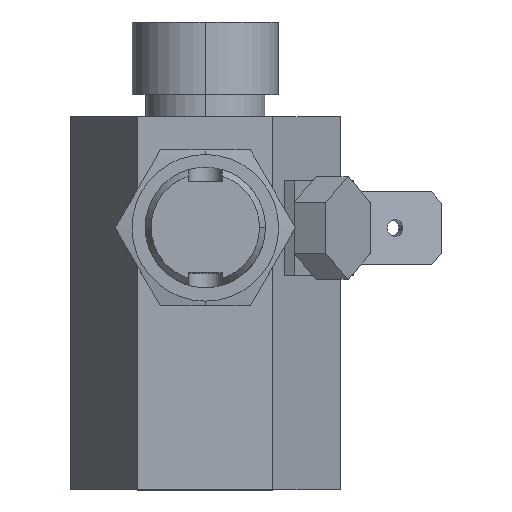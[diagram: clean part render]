
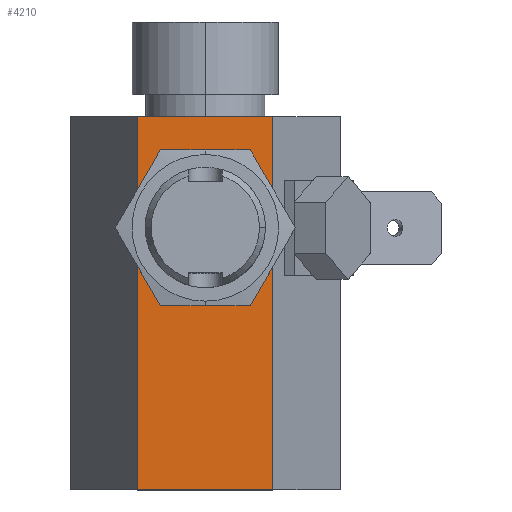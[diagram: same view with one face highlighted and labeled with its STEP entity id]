
A CAD part, top view. The second image highlights one B-rep face of the part: STEP entity #4210.
In plain terms, the highlighted planar face has unit normal (0, 0, 1).
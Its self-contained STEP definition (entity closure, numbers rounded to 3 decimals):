
#426 = DIRECTION ( 'NONE',  ( 1., 0., 0. ) ) ;
#427 = DIRECTION ( 'NONE',  ( 0., 0., 1. ) ) ;
#1130 = VECTOR ( 'NONE', #1790, 1000. ) ;
#1135 = VECTOR ( 'NONE', #1827, 1000. ) ;
#1136 = LINE ( 'NONE', #1831, #1135 ) ;
#1143 = LINE ( 'NONE', #1800, #1130 ) ;
#1446 = VECTOR ( 'NONE', #2259, 1000. ) ;
#1449 = LINE ( 'NONE', #2346, #1446 ) ;
#1504 = FACE_OUTER_BOUND ( 'NONE', #3659, .T. ) ;
#1516 = FACE_BOUND ( 'NONE', #3144, .T. ) ;
#1701 = VERTEX_POINT ( 'NONE', #2456 ) ;
#1702 = VERTEX_POINT ( 'NONE', #2457 ) ;
#1720 = DIRECTION ( 'NONE',  ( 0., -1., 0. ) ) ;
#1721 = CARTESIAN_POINT ( 'NONE',  ( 6.062, 33.5, 10.5 ) ) ;
#1722 = DIRECTION ( 'NONE',  ( 1., 0., 0. ) ) ;
#1723 = DIRECTION ( 'NONE',  ( 0., 0., 1. ) ) ;
#1724 = CARTESIAN_POINT ( 'NONE',  ( 0., 23.5, 10.5 ) ) ;
#1727 = CARTESIAN_POINT ( 'NONE',  ( 0., 23.5, 10.5 ) ) ;
#1790 = DIRECTION ( 'NONE',  ( 1., 0., 0. ) ) ;
#1800 = CARTESIAN_POINT ( 'NONE',  ( -6.062, 33.5, 10.5 ) ) ;
#1827 = DIRECTION ( 'NONE',  ( 1., 0., 0. ) ) ;
#1831 = CARTESIAN_POINT ( 'NONE',  ( -6.062, 0., 10.5 ) ) ;
#2112 = VERTEX_POINT ( 'NONE', #2471 ) ;
#2244 = VERTEX_POINT ( 'NONE', #2554 ) ;
#2250 = VERTEX_POINT ( 'NONE', #2557 ) ;
#2259 = DIRECTION ( 'NONE',  ( 0., -1., 0. ) ) ;
#2268 = VERTEX_POINT ( 'NONE', #2666 ) ;
#2346 = CARTESIAN_POINT ( 'NONE',  ( -6.062, 33.5, 10.5 ) ) ;
#2456 = CARTESIAN_POINT ( 'NONE',  ( 4.4, 23.5, 10.5 ) ) ;
#2457 = CARTESIAN_POINT ( 'NONE',  ( -4.4, 23.5, 10.5 ) ) ;
#2471 = CARTESIAN_POINT ( 'NONE',  ( 6.062, 0., 10.5 ) ) ;
#2554 = CARTESIAN_POINT ( 'NONE',  ( -6.062, 33.5, 10.5 ) ) ;
#2557 = CARTESIAN_POINT ( 'NONE',  ( -6.062, 0., 10.5 ) ) ;
#2666 = CARTESIAN_POINT ( 'NONE',  ( 6.062, 33.5, 10.5 ) ) ;
#2977 = DIRECTION ( 'NONE',  ( 0., 0., -1. ) ) ;
#3089 = CARTESIAN_POINT ( 'NONE',  ( -6.062, 33.5, 10.5 ) ) ;
#3092 = PLANE ( 'NONE',  #4652 ) ;
#3093 = DIRECTION ( 'NONE',  ( -1., 0., 0. ) ) ;
#3144 = EDGE_LOOP ( 'NONE', ( #3730, #3731 ) ) ;
#3659 = EDGE_LOOP ( 'NONE', ( #3732, #3733, #3736, #3734 ) ) ;
#3730 = ORIENTED_EDGE ( 'NONE', *, *, #4536, .F. ) ;
#3731 = ORIENTED_EDGE ( 'NONE', *, *, #4827, .F. ) ;
#3732 = ORIENTED_EDGE ( 'NONE', *, *, #4451, .T. ) ;
#3733 = ORIENTED_EDGE ( 'NONE', *, *, #4537, .F. ) ;
#3734 = ORIENTED_EDGE ( 'NONE', *, *, #4243, .T. ) ;
#3736 = ORIENTED_EDGE ( 'NONE', *, *, #4454, .F. ) ;
#4059 = CIRCLE ( 'NONE', #4773, 4.4 ) ;
#4060 = VECTOR ( 'NONE', #1720, 1000. ) ;
#4094 = LINE ( 'NONE', #1721, #4060 ) ;
#4103 = CIRCLE ( 'NONE', #4776, 4.4 ) ;
#4210 = ADVANCED_FACE ( 'NONE', ( #1516, #1504 ), #3092, .F. ) ;
#4243 = EDGE_CURVE ( 'NONE', #2244, #2250, #1449, .T. ) ;
#4451 = EDGE_CURVE ( 'NONE', #2250, #2112, #1136, .T. ) ;
#4454 = EDGE_CURVE ( 'NONE', #2244, #2268, #1143, .T. ) ;
#4536 = EDGE_CURVE ( 'NONE', #1701, #1702, #4059, .T. ) ;
#4537 = EDGE_CURVE ( 'NONE', #2268, #2112, #4094, .T. ) ;
#4652 = AXIS2_PLACEMENT_3D ( 'NONE', #3089, #2977, #3093 ) ;
#4773 = AXIS2_PLACEMENT_3D ( 'NONE', #1727, #1723, #1722 ) ;
#4776 = AXIS2_PLACEMENT_3D ( 'NONE', #1724, #427, #426 ) ;
#4827 = EDGE_CURVE ( 'NONE', #1702, #1701, #4103, .T. ) ;
